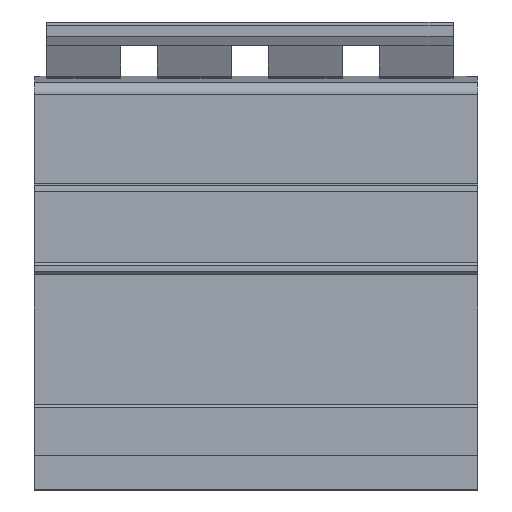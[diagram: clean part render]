
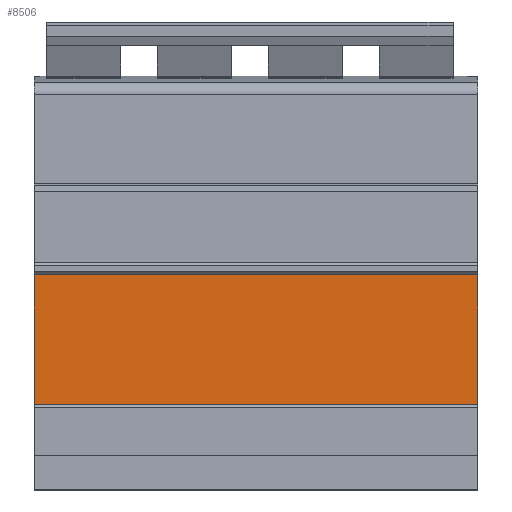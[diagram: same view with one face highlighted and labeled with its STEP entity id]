
A CAD part, front view. The second image highlights one B-rep face of the part: STEP entity #8506.
In plain terms, the highlighted planar face has unit normal (0, -1, 0).
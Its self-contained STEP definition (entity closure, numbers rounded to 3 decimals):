
#321=LINE('',#13483,#1077);
#367=LINE('',#13878,#1123);
#411=LINE('',#13969,#1167);
#412=LINE('',#13971,#1168);
#1077=VECTOR('',#10522,10.);
#1123=VECTOR('',#11022,10.);
#1167=VECTOR('',#11078,10.);
#1168=VECTOR('',#11081,10.);
#2233=FACE_OUTER_BOUND('',#2900,.T.);
#2900=EDGE_LOOP('',(#6555,#6556,#6557,#6558));
#3911=VERTEX_POINT('',#13480);
#3912=VERTEX_POINT('',#13482);
#4033=VERTEX_POINT('',#13875);
#4034=VERTEX_POINT('',#13877);
#4821=EDGE_CURVE('',#3911,#3912,#321,.T.);
#4983=EDGE_CURVE('',#4034,#4033,#367,.T.);
#5030=EDGE_CURVE('',#4033,#3912,#411,.T.);
#5031=EDGE_CURVE('',#4034,#3911,#412,.T.);
#6555=ORIENTED_EDGE('',*,*,#4983,.T.);
#6556=ORIENTED_EDGE('',*,*,#5030,.T.);
#6557=ORIENTED_EDGE('',*,*,#4821,.F.);
#6558=ORIENTED_EDGE('',*,*,#5031,.F.);
#7985=PLANE('',#9353);
#8506=ADVANCED_FACE('',(#2233),#7985,.T.);
#9353=AXIS2_PLACEMENT_3D('',#13970,#11079,#11080);
#10522=DIRECTION('',(0.,0.,-1.));
#11022=DIRECTION('',(0.,0.,-1.));
#11078=DIRECTION('',(1.,0.,0.));
#11079=DIRECTION('center_axis',(0.,-1.,0.));
#11080=DIRECTION('ref_axis',(0.,0.,-1.));
#11081=DIRECTION('',(1.,0.,0.));
#13480=CARTESIAN_POINT('',(72.,-45.241,5.4));
#13482=CARTESIAN_POINT('',(72.,-45.241,-15.712));
#13483=CARTESIAN_POINT('',(72.,-45.241,5.4));
#13875=CARTESIAN_POINT('',(0.,-45.241,-15.712));
#13877=CARTESIAN_POINT('',(0.,-45.241,5.4));
#13878=CARTESIAN_POINT('',(0.,-45.241,5.4));
#13969=CARTESIAN_POINT('',(0.,-45.241,-15.712));
#13970=CARTESIAN_POINT('Origin',(0.,-45.241,5.4));
#13971=CARTESIAN_POINT('',(0.,-45.241,5.4));
